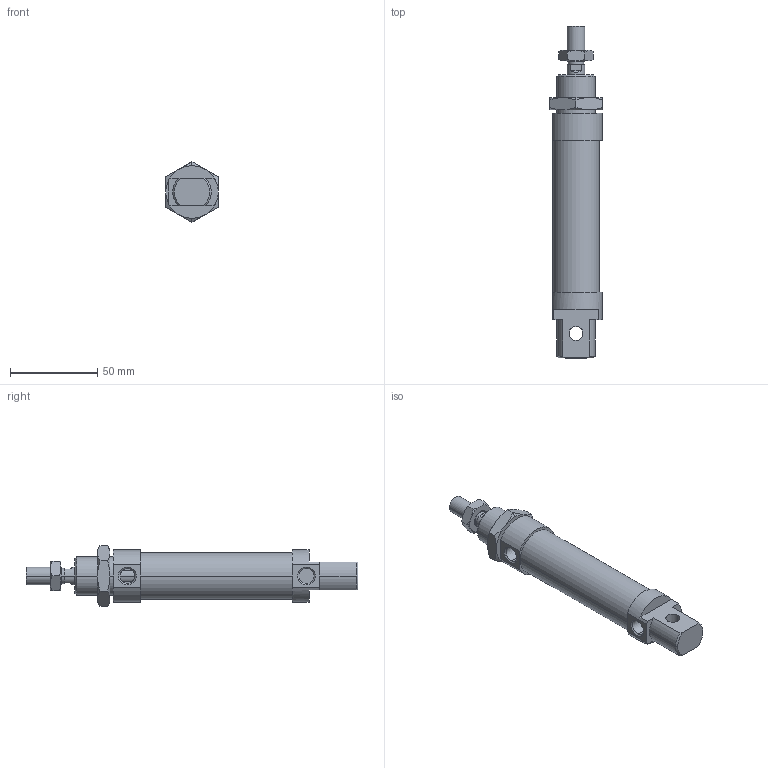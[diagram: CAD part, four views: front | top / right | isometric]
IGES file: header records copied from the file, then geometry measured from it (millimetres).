
Global section: file name: No Iges File Name specified; native system: AutoDesk Inventor R6.0; preprocessor: AutoDesk Inventor Iges Exporter R6.0; author: No Author specified; organization: No Organization specified; date: 20030407.191521; units: millimetre
Bounding box: 30 x 190 x 34.64 mm (x, y, z)
Volume: 87664.5 mm3; surface area: 24730.2 mm2
Topology: 4 solids, 4 shells, 124 faces, 281 edges, 170 vertices
Faces by surface type: plane 41, cone 38, bspline 21, cylinder 18, revolution 6
